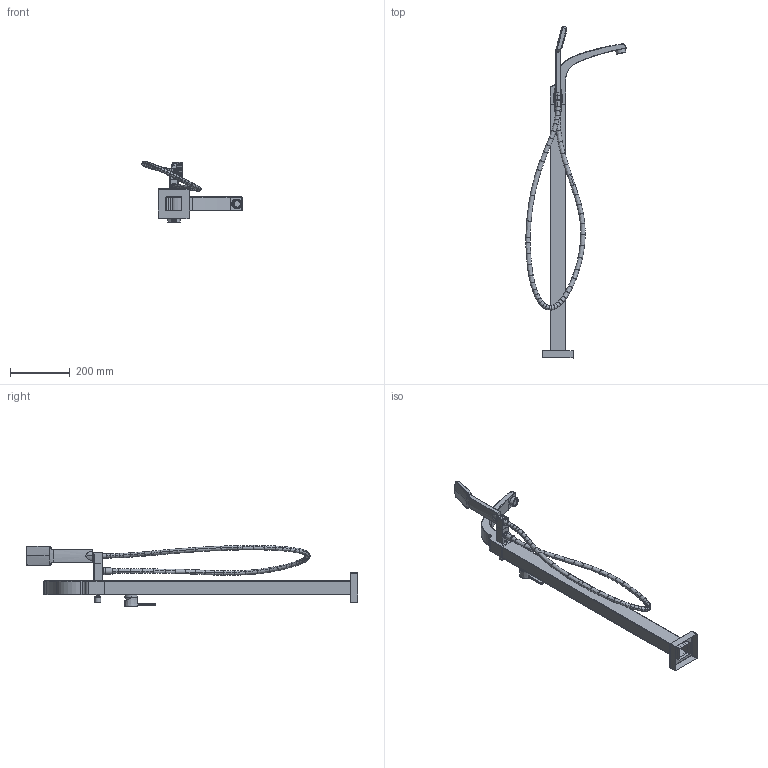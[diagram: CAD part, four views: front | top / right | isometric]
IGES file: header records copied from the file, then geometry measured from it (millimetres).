
Start section: SolidWorks IGES file using analytic representation for surfaces
Bounding box: 337.03 x 1115.27 x 205.54 mm (x, y, z)
Surface area: 521161.2 mm2 (no closed solid volume)
Topology: 0 solids, 0 shells, 1556 faces, 13596 edges, 13295 vertices
Faces by surface type: bspline 852, revolution 704
